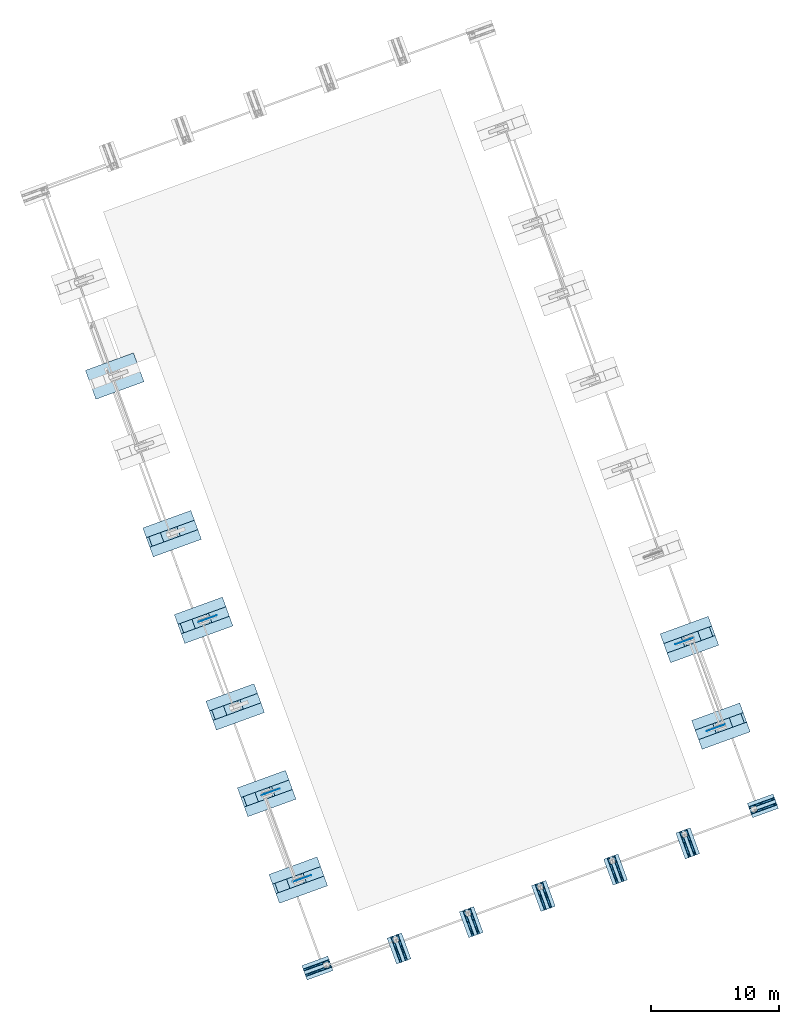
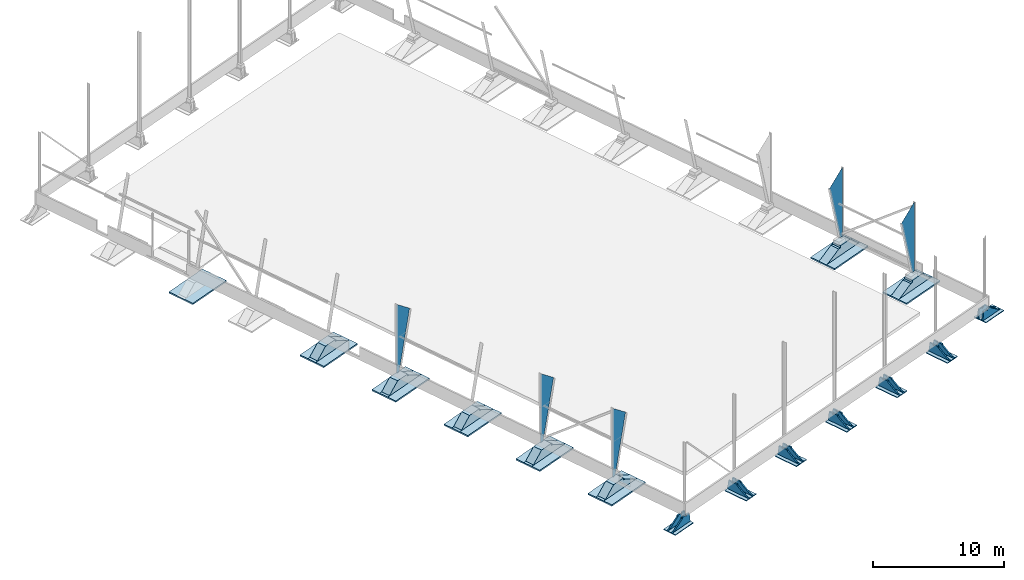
# One storey, part 12 of 20: 36 slabs, 5 plates, 41 elements without a shape of their own.
"""IFC4 building model written with IfcOpenShell, lengths in millimetres."""

from ifc_helpers import new_model, si_unit, direction, frame, origin_with_axes, place, context, subcontext, project, spatial, line, indexed_curve, outline, extrude, material, element, aggregate, save


model = new_model("IFC4")

# Units and contexts
model_context = context("Model", 3, precision=0.2, world=frame((203566.813, 116264.779, 0.0), z_axis=(0.0, 0.0, 1.0), x_axis=(1.0, 0.0, 0.0)), true_north=direction((-0.9396138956, -0.3422363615)))
body_context = subcontext(model_context, "Body", "Model", "MODEL_VIEW")
ifc_project = project(units=[si_unit("LENGTHUNIT", "METRE", prefix="MILLI"), si_unit("AREAUNIT", "SQUARE_METRE"), si_unit("VOLUMEUNIT", "CUBIC_METRE"), si_unit("MASSUNIT", "GRAM", prefix="KILO"), si_unit("TIMEUNIT", "SECOND"), si_unit("PLANEANGLEUNIT", "RADIAN"), si_unit("SOLIDANGLEUNIT", "STERADIAN"), si_unit("THERMODYNAMICTEMPERATUREUNIT", "DEGREE_CELSIUS"), si_unit("LUMINOUSINTENSITYUNIT", "LUMEN")], contexts=[model_context])

# Site, building, storey
site_placement = place(None, origin_with_axes())
site = spatial("IfcSite", under=ifc_project, at=site_placement, Name="Nobelprojektet", CompositionType="ELEMENT")
building_placement = place(site_placement, origin_with_axes())
building = spatial("IfcBuilding", under=site, at=building_placement, Name="Hall B", CompositionType="ELEMENT")
storey_placement = place(building_placement, frame((0.0, 0.0, 1000.0), z_axis=(0.0, 0.0, 1.0), x_axis=(1.0, 0.0, 0.0)))
storey = spatial("IfcBuildingStorey", under=building, at=storey_placement, Name="Plan_1", CompositionType="ELEMENT", Elevation=1000.0)

# Assembly, slab
assembly_1_placement = place(storey_placement, frame((183937.63575, 124685.40881, 131014.99996), z_axis=(0.0, 0.0, 1.0), x_axis=(0.9396136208, 0.3422371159, 0.0)))
assembly_1 = element("IfcElementAssembly", 1, at=assembly_1_placement, inside=storey, Name="BJÄLKLAG", PredefinedType="NOTDEFINED")
ifc_material_1 = material(Name="C25/30", Category="CONCRETE")
slab_1_placement = place(assembly_1_placement, origin_with_axes())
slab_1 = element("IfcSlab", 2, at=slab_1_placement, material=ifc_material_1, Name="BEF_GRUND", PredefinedType="NOTDEFINED", context=body_context, shape_type="SolidModel", body=[
    extrude(outline(indexed_curve([(0.0, 0.0), (2150.00916, 0.0), (2150.00916, 1200.01221), (0.0, 1200.01221)], segments=[line(1, 2, 3, 4, 1)])), frame((0.0, 0.0, 35.0), z_axis=(0.0, 0.0, 1.0), x_axis=(1.0, 0.0, 0.0)), (0.0, 0.0, -1.0), 70.0),
])
aggregate(assembly_1, [slab_1])

assembly_2_placement = place(storey_placement, frame((185674.79012, 126198.2875, 131049.99996), z_axis=(0.3422371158, -0.9396136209, 1.3e-09), x_axis=(-0.9257183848, -0.3371760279, 0.171341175)))
assembly_2 = element("IfcElementAssembly", 3, at=assembly_2_placement, inside=storey, Name="BEF_GRUND", PredefinedType="NOTDEFINED")
slab_2_placement = place(assembly_2_placement, origin_with_axes())
slab_2 = element("IfcSlab", 4, at=slab_2_placement, material=ifc_material_1, Name="BEF_GRUND", PredefinedType="NOTDEFINED", context=body_context, shape_type="SolidModel", body=[
    extrude(outline(indexed_curve([(0.0, 0.0), (233.45235, 0.0), (1303.30665, -502.11531), (1328.66514, -601.23618), (1710.9273, -534.75581), (1693.79318, -436.23463), (1800.19605, -417.72978), (1821.27102, -515.56559), (2151.31695, -458.1663), (2118.21429, 368.38509)], segments=[line(1, 2, 3, 4, 5, 6, 7, 8, 9, 10, 1)])), frame((0.0, 0.0, 65.0), z_axis=(0.0, 0.0, 1.0), x_axis=(1.0, 0.0, 0.0)), (0.0, 0.0, -1.0), 130.0),
])
aggregate(assembly_2, [slab_2])

assembly_3_placement = place(storey_placement, frame((185830.16577, 125771.70292, 131049.99996), z_axis=(0.3422371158, -0.9396136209, 1.3e-09), x_axis=(-0.9257183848, -0.3371760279, 0.171341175)))
assembly_3 = element("IfcElementAssembly", 5, at=assembly_3_placement, inside=storey, Name="BEF_GRUND", PredefinedType="NOTDEFINED")
slab_3_placement = place(assembly_3_placement, origin_with_axes())
slab_3 = element("IfcSlab", 6, at=slab_3_placement, material=ifc_material_1, Name="BEF_GRUND", PredefinedType="NOTDEFINED", context=body_context, shape_type="SolidModel", body=[
    extrude(outline(indexed_curve([(0.0, 0.0), (233.45235, 0.0), (1303.30665, -502.11531), (1328.66514, -601.23618), (1710.9273, -534.75581), (1693.79318, -436.23463), (1800.19605, -417.72978), (1821.27102, -515.56559), (2151.31695, -458.1663), (2118.21429, 368.38509)], segments=[line(1, 2, 3, 4, 5, 6, 7, 8, 9, 10, 1)])), frame((0.0, 0.0, 65.0), z_axis=(0.0, 0.0, 1.0), x_axis=(1.0, 0.0, 0.0)), (0.0, 0.0, -1.0), 130.0),
])
aggregate(assembly_3, [slab_3])

assembly_4_placement = place(storey_placement, frame((180002.36309, 130031.59569, 130904.99996), z_axis=(0.0, 0.0, 1.0), x_axis=(0.9396136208, 0.3422371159, 0.0)))
assembly_4 = element("IfcElementAssembly", 7, at=assembly_4_placement, inside=storey, Name="BEF_GRUND", PredefinedType="NOTDEFINED")
slab_4_placement = place(assembly_4_placement, origin_with_axes())
slab_4 = element("IfcSlab", 8, at=slab_4_placement, material=ifc_material_1, Name="BEF_GRUND", PredefinedType="NOTDEFINED", context=body_context, shape_type="SolidModel", body=[
    extrude(outline(indexed_curve([(0.0, 0.0), (4000.0, 0.0), (4000.0, 2399.9939), (0.0, 2400.0)], segments=[line(1, 2, 3, 4, 1)])), frame((0.0, 0.0, 65.0), z_axis=(0.0, 0.0, 1.0), x_axis=(1.0, 0.0, 0.0)), (0.0, 0.0, -1.0), 130.0),
])
aggregate(assembly_4, [slab_4])

assembly_5_placement = place(storey_placement, frame((183350.13684, 132528.07539, 130969.99996), z_axis=(0.3422371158, -0.9396136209, 1.3e-09), x_axis=(-0.9213674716, -0.3355896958, 0.1961161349)))
assembly_5 = element("IfcElementAssembly", 9, at=assembly_5_placement, inside=storey, Name="BEF_GRUND", PredefinedType="NOTDEFINED")
slab_5_placement = place(assembly_5_placement, origin_with_axes())
slab_5 = element("IfcSlab", 10, at=slab_5_placement, material=ifc_material_1, Name="BEF_GRUND", PredefinedType="NOTDEFINED", context=body_context, shape_type="SolidModel", body=[
    extrude(outline(indexed_curve([(0.0, 0.0), (203.96078, 0.0), (1321.82275, -653.45896), (2478.90795, -422.04192), (2439.68472, -225.92579), (2627.95621, -188.27149), (3734.05121, 706.01809), (3922.3227, 784.46454)], segments=[line(1, 2, 3, 4, 5, 6, 7, 8, 1)])), frame((0.0, 0.0, 392.5), z_axis=(0.0, 0.0, 1.0), x_axis=(1.0, 0.0, 0.0)), (0.0, 0.0, -1.0), 785.0),
])
aggregate(assembly_5, [slab_5])

assembly_6_placement = place(storey_placement, frame((150742.80393, 119374.33518, 130904.99996), z_axis=(0.0, 0.0, -1.0), x_axis=(-0.9396136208, -0.3422371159, 0.0)))
assembly_6 = element("IfcElementAssembly", 11, at=assembly_6_placement, inside=storey, Name="BEF_GRUND", PredefinedType="NOTDEFINED")
slab_6_placement = place(assembly_6_placement, origin_with_axes())
slab_6 = element("IfcSlab", 12, at=slab_6_placement, material=ifc_material_1, Name="BEF_GRUND", PredefinedType="NOTDEFINED", context=body_context, shape_type="SolidModel", body=[
    extrude(outline(indexed_curve([(0.0, 0.0), (4000.0, 0.0), (4000.0, 2399.9939), (0.0, 2400.0)], segments=[line(1, 2, 3, 4, 1)])), frame((0.0, 0.0, 65.0), z_axis=(0.0, 0.0, 1.0), x_axis=(1.0, 0.0, 0.0)), (0.0, 0.0, -1.0), 130.0),
])
aggregate(assembly_6, [slab_6])

assembly_7_placement = place(storey_placement, frame((146573.66528, 119132.9167, 130969.99996), z_axis=(-0.3422371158, 0.9396136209, 1.3e-09), x_axis=(0.9213664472, 0.3355925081, 0.1961161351)))
assembly_7 = element("IfcElementAssembly", 13, at=assembly_7_placement, inside=storey, Name="BEF_GRUND", PredefinedType="NOTDEFINED")
slab_7_placement = place(assembly_7_placement, origin_with_axes())
slab_7 = element("IfcSlab", 14, at=slab_7_placement, material=ifc_material_1, Name="BEF_GRUND", PredefinedType="NOTDEFINED", context=body_context, shape_type="SolidModel", body=[
    extrude(outline(indexed_curve([(0.0, 0.0), (203.96078, 0.0), (1321.82275, -653.45896), (2478.90795, -422.04192), (2439.68472, -225.92579), (2627.95621, -188.27149), (3734.05121, 706.01809), (3922.3227, 784.46454)], segments=[line(1, 2, 3, 4, 5, 6, 7, 8, 1)])), frame((0.0, 0.0, 392.5), z_axis=(0.0, 0.0, 1.0), x_axis=(1.0, 0.0, 0.0)), (0.0, 0.0, -1.0), 785.0),
])
aggregate(assembly_7, [slab_7])

assembly_8_placement = place(storey_placement, frame((177538.25585, 136796.81376, 130904.99996), z_axis=(0.0, 0.0, 1.0), x_axis=(0.9396136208, 0.3422371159, 0.0)))
assembly_8 = element("IfcElementAssembly", 15, at=assembly_8_placement, inside=storey, Name="BEF_GRUND", PredefinedType="NOTDEFINED")
slab_8_placement = place(assembly_8_placement, origin_with_axes())
slab_8 = element("IfcSlab", 16, at=slab_8_placement, material=ifc_material_1, Name="BEF_GRUND", PredefinedType="NOTDEFINED", context=body_context, shape_type="SolidModel", body=[
    extrude(outline(indexed_curve([(0.0, 0.0), (4000.0, 0.0), (4000.0, 2399.9939), (0.0, 2400.0)], segments=[line(1, 2, 3, 4, 1)])), frame((0.0, 0.0, 65.0), z_axis=(0.0, 0.0, 1.0), x_axis=(1.0, 0.0, 0.0)), (0.0, 0.0, -1.0), 130.0),
])
aggregate(assembly_8, [slab_8])

assembly_9_placement = place(storey_placement, frame((180886.02961, 139293.29346, 130969.99996), z_axis=(0.3422371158, -0.9396136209, 1.3e-09), x_axis=(-0.9213674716, -0.3355896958, 0.1961161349)))
assembly_9 = element("IfcElementAssembly", 17, at=assembly_9_placement, inside=storey, Name="BEF_GRUND", PredefinedType="NOTDEFINED")
slab_9_placement = place(assembly_9_placement, origin_with_axes())
slab_9 = element("IfcSlab", 18, at=slab_9_placement, material=ifc_material_1, Name="BEF_GRUND", PredefinedType="NOTDEFINED", context=body_context, shape_type="SolidModel", body=[
    extrude(outline(indexed_curve([(0.0, 0.0), (203.96078, 0.0), (1321.82275, -653.45896), (2478.90795, -422.04192), (2439.68472, -225.92579), (2627.95621, -188.27149), (3734.05121, 706.01809), (3922.3227, 784.46454)], segments=[line(1, 2, 3, 4, 5, 6, 7, 8, 1)])), frame((0.0, 0.0, 392.5), z_axis=(0.0, 0.0, 1.0), x_axis=(1.0, 0.0, 0.0)), (0.0, 0.0, -1.0), 785.0),
])
aggregate(assembly_9, [slab_9])

assembly_10_placement = place(storey_placement, frame((148278.6967, 126139.55325, 130904.99996), z_axis=(0.0, 0.0, -1.0), x_axis=(-0.9396136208, -0.3422371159, 0.0)))
assembly_10 = element("IfcElementAssembly", 19, at=assembly_10_placement, inside=storey, Name="BEF_GRUND", PredefinedType="NOTDEFINED")
slab_10_placement = place(assembly_10_placement, origin_with_axes())
slab_10 = element("IfcSlab", 20, at=slab_10_placement, material=ifc_material_1, Name="BEF_GRUND", PredefinedType="NOTDEFINED", context=body_context, shape_type="SolidModel", body=[
    extrude(outline(indexed_curve([(0.0, 0.0), (4000.0, 0.0), (4000.0, 2399.9939), (0.0, 2400.0)], segments=[line(1, 2, 3, 4, 1)])), frame((0.0, 0.0, 65.0), z_axis=(0.0, 0.0, 1.0), x_axis=(1.0, 0.0, 0.0)), (0.0, 0.0, -1.0), 130.0),
])
aggregate(assembly_10, [slab_10])

assembly_11_placement = place(storey_placement, frame((144109.55805, 125898.13477, 130969.99996), z_axis=(-0.3422371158, 0.9396136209, 1.3e-09), x_axis=(0.9213664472, 0.3355925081, 0.1961161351)))
assembly_11 = element("IfcElementAssembly", 21, at=assembly_11_placement, inside=storey, Name="BEF_GRUND", PredefinedType="NOTDEFINED")
slab_11_placement = place(assembly_11_placement, origin_with_axes())
slab_11 = element("IfcSlab", 22, at=slab_11_placement, material=ifc_material_1, Name="BEF_GRUND", PredefinedType="NOTDEFINED", context=body_context, shape_type="SolidModel", body=[
    extrude(outline(indexed_curve([(0.0, 0.0), (203.96078, 0.0), (1321.82275, -653.45896), (2478.90795, -422.04192), (2439.68472, -225.92579), (2627.95621, -188.27149), (3734.05121, 706.01809), (3922.3227, 784.46454)], segments=[line(1, 2, 3, 4, 5, 6, 7, 8, 1)])), frame((0.0, 0.0, 392.5), z_axis=(0.0, 0.0, 1.0), x_axis=(1.0, 0.0, 0.0)), (0.0, 0.0, -1.0), 785.0),
])
aggregate(assembly_11, [slab_11])

assembly_12_placement = place(storey_placement, frame((145814.58947, 132904.77132, 130904.99996), z_axis=(0.0, 0.0, -1.0), x_axis=(-0.9396136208, -0.3422371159, 0.0)))
assembly_12 = element("IfcElementAssembly", 23, at=assembly_12_placement, inside=storey, Name="BEF_GRUND", PredefinedType="NOTDEFINED")
slab_12_placement = place(assembly_12_placement, origin_with_axes())
slab_12 = element("IfcSlab", 24, at=slab_12_placement, material=ifc_material_1, Name="BEF_GRUND", PredefinedType="NOTDEFINED", context=body_context, shape_type="SolidModel", body=[
    extrude(outline(indexed_curve([(0.0, 0.0), (4000.0, 0.0), (4000.0, 2399.9939), (0.0, 2400.0)], segments=[line(1, 2, 3, 4, 1)])), frame((0.0, 0.0, 65.0), z_axis=(0.0, 0.0, 1.0), x_axis=(1.0, 0.0, 0.0)), (0.0, 0.0, -1.0), 130.0),
])
aggregate(assembly_12, [slab_12])

assembly_13_placement = place(storey_placement, frame((141645.45081, 132663.35284, 130969.99996), z_axis=(-0.3422371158, 0.9396136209, 1.3e-09), x_axis=(0.9213664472, 0.3355925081, 0.1961161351)))
assembly_13 = element("IfcElementAssembly", 25, at=assembly_13_placement, inside=storey, Name="BEF_GRUND", PredefinedType="NOTDEFINED")
slab_13_placement = place(assembly_13_placement, origin_with_axes())
slab_13 = element("IfcSlab", 26, at=slab_13_placement, material=ifc_material_1, Name="BEF_GRUND", PredefinedType="NOTDEFINED", context=body_context, shape_type="SolidModel", body=[
    extrude(outline(indexed_curve([(0.0, 0.0), (203.96078, 0.0), (1321.82275, -653.45896), (2478.90795, -422.04192), (2439.68472, -225.92579), (2627.95621, -188.27149), (3734.05121, 706.01809), (3922.3227, 784.46454)], segments=[line(1, 2, 3, 4, 5, 6, 7, 8, 1)])), frame((0.0, 0.0, 392.5), z_axis=(0.0, 0.0, 1.0), x_axis=(1.0, 0.0, 0.0)), (0.0, 0.0, -1.0), 785.0),
])
aggregate(assembly_13, [slab_13])

assembly_14_placement = place(storey_placement, frame((143350.48223, 139669.98939, 130904.99996), z_axis=(0.0, 0.0, -1.0), x_axis=(-0.9396136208, -0.3422371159, 0.0)))
assembly_14 = element("IfcElementAssembly", 27, at=assembly_14_placement, inside=storey, Name="BEF_GRUND", PredefinedType="NOTDEFINED")
slab_14_placement = place(assembly_14_placement, origin_with_axes())
slab_14 = element("IfcSlab", 28, at=slab_14_placement, material=ifc_material_1, Name="BEF_GRUND", PredefinedType="NOTDEFINED", context=body_context, shape_type="SolidModel", body=[
    extrude(outline(indexed_curve([(0.0, 0.0), (4000.0, 0.0), (4000.0, 2399.9939), (0.0, 2400.0)], segments=[line(1, 2, 3, 4, 1)])), frame((0.0, 0.0, 65.0), z_axis=(0.0, 0.0, 1.0), x_axis=(1.0, 0.0, 0.0)), (0.0, 0.0, -1.0), 130.0),
])
aggregate(assembly_14, [slab_14])

assembly_15_placement = place(storey_placement, frame((139181.34358, 139428.57091, 130969.99996), z_axis=(-0.3422371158, 0.9396136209, 1.3e-09), x_axis=(0.9213664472, 0.3355925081, 0.1961161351)))
assembly_15 = element("IfcElementAssembly", 29, at=assembly_15_placement, inside=storey, Name="BEF_GRUND", PredefinedType="NOTDEFINED")
slab_15_placement = place(assembly_15_placement, origin_with_axes())
slab_15 = element("IfcSlab", 30, at=slab_15_placement, material=ifc_material_1, Name="BEF_GRUND", PredefinedType="NOTDEFINED", context=body_context, shape_type="SolidModel", body=[
    extrude(outline(indexed_curve([(0.0, 0.0), (203.96078, 0.0), (1321.82275, -653.45896), (2478.90795, -422.04192), (2439.68472, -225.92579), (2627.95621, -188.27149), (3734.05121, 706.01809), (3922.3227, 784.46454)], segments=[line(1, 2, 3, 4, 5, 6, 7, 8, 1)])), frame((0.0, 0.0, 392.5), z_axis=(0.0, 0.0, 1.0), x_axis=(1.0, 0.0, 0.0)), (0.0, 0.0, -1.0), 785.0),
])
aggregate(assembly_15, [slab_15])

assembly_16_placement = place(storey_placement, frame((140886.375, 146435.20746, 130904.99996), z_axis=(0.0, 0.0, -1.0), x_axis=(-0.9396136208, -0.3422371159, 0.0)))
assembly_16 = element("IfcElementAssembly", 31, at=assembly_16_placement, inside=storey, Name="BEF_GRUND", PredefinedType="NOTDEFINED")
slab_16_placement = place(assembly_16_placement, origin_with_axes())
slab_16 = element("IfcSlab", 32, at=slab_16_placement, material=ifc_material_1, Name="BEF_GRUND", PredefinedType="NOTDEFINED", context=body_context, shape_type="SolidModel", body=[
    extrude(outline(indexed_curve([(0.0, 0.0), (4000.0, 0.0), (4000.0, 2399.9939), (0.0, 2400.0)], segments=[line(1, 2, 3, 4, 1)])), frame((0.0, 0.0, 65.0), z_axis=(0.0, 0.0, 1.0), x_axis=(1.0, 0.0, 0.0)), (0.0, 0.0, -1.0), 130.0),
])
aggregate(assembly_16, [slab_16])

assembly_17_placement = place(storey_placement, frame((136717.23634, 146193.78898, 130969.99996), z_axis=(-0.3422371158, 0.9396136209, 1.3e-09), x_axis=(0.9213664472, 0.3355925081, 0.1961161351)))
assembly_17 = element("IfcElementAssembly", 33, at=assembly_17_placement, inside=storey, Name="BEF_GRUND", PredefinedType="NOTDEFINED")
slab_17_placement = place(assembly_17_placement, origin_with_axes())
slab_17 = element("IfcSlab", 34, at=slab_17_placement, material=ifc_material_1, Name="BEF_GRUND", PredefinedType="NOTDEFINED", context=body_context, shape_type="SolidModel", body=[
    extrude(outline(indexed_curve([(0.0, 0.0), (203.96078, 0.0), (1321.82275, -653.45896), (2478.90795, -422.04192), (2439.68472, -225.92579), (2627.95621, -188.27149), (3734.05121, 706.01809), (3922.3227, 784.46454)], segments=[line(1, 2, 3, 4, 5, 6, 7, 8, 1)])), frame((0.0, 0.0, 392.5), z_axis=(0.0, 0.0, 1.0), x_axis=(1.0, 0.0, 0.0)), (0.0, 0.0, -1.0), 785.0),
])
aggregate(assembly_17, [slab_17])

assembly_18_placement = place(storey_placement, frame((136403.06878, 158744.14589, 130904.99996), z_axis=(0.0, 0.0, -1.0), x_axis=(-0.9396136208, -0.3422371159, 0.0)))
assembly_18 = element("IfcElementAssembly", 35, at=assembly_18_placement, inside=storey, Name="BEF_GRUND", PredefinedType="NOTDEFINED")
slab_18_placement = place(assembly_18_placement, origin_with_axes())
slab_18 = element("IfcSlab", 36, at=slab_18_placement, material=ifc_material_1, Name="BEF_GRUND", PredefinedType="NOTDEFINED", context=body_context, shape_type="SolidModel", body=[
    extrude(outline(indexed_curve([(0.0, 0.0), (4000.0, 0.0), (4000.0, 2399.9939), (0.0, 2400.0)], segments=[line(1, 2, 3, 4, 1)])), frame((0.0, 0.0, 65.0), z_axis=(0.0, 0.0, 1.0), x_axis=(1.0, 0.0, 0.0)), (0.0, 0.0, -1.0), 130.0),
])
aggregate(assembly_18, [slab_18])

assembly_19_placement = place(storey_placement, frame((151167.66322, 112749.68903, 131014.99996), z_axis=(0.0, 0.0, -1.0), x_axis=(-0.9396136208, -0.3422371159, 0.0)))
assembly_19 = element("IfcElementAssembly", 37, at=assembly_19_placement, inside=storey, Name="BEF_GRUND", PredefinedType="NOTDEFINED")
slab_19_placement = place(assembly_19_placement, origin_with_axes())
slab_19 = element("IfcSlab", 38, at=slab_19_placement, material=ifc_material_1, Name="BEF_GRUND", PredefinedType="NOTDEFINED", context=body_context, shape_type="SolidModel", body=[
    extrude(outline(indexed_curve([(0.0, 0.0), (2150.00916, 0.0), (2150.00916, 1200.01221), (0.0, 1200.01221)], segments=[line(1, 2, 3, 4, 1)])), frame((0.0, 0.0, 35.0), z_axis=(0.0, 0.0, 1.0), x_axis=(1.0, 0.0, 0.0)), (0.0, 0.0, -1.0), 70.0),
])
aggregate(assembly_19, [slab_19])

assembly_20_placement = place(storey_placement, frame((148864.4468, 112790.93639, 131049.99996), z_axis=(-0.3422371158, 0.9396136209, 1.3e-09), x_axis=(0.9257183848, 0.3371760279, 0.171341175)))
assembly_20 = element("IfcElementAssembly", 39, at=assembly_20_placement, inside=storey, Name="BEF_GRUND", PredefinedType="NOTDEFINED")
slab_20_placement = place(assembly_20_placement, origin_with_axes())
slab_20 = element("IfcSlab", 40, at=slab_20_placement, material=ifc_material_1, Name="BEF_GRUND", PredefinedType="NOTDEFINED", context=body_context, shape_type="SolidModel", body=[
    extrude(outline(indexed_curve([(0.0, 0.0), (233.45235, 0.0), (1303.30665, -502.11531), (1328.66514, -601.23618), (1710.9273, -534.75581), (1693.79318, -436.23463), (1800.19605, -417.72978), (1821.27102, -515.56559), (2151.31695, -458.1663), (2118.21429, 368.38509)], segments=[line(1, 2, 3, 4, 5, 6, 7, 8, 9, 10, 1)])), frame((0.0, 0.0, 65.0), z_axis=(0.0, 0.0, 1.0), x_axis=(1.0, 0.0, 0.0)), (0.0, 0.0, -1.0), 130.0),
])
aggregate(assembly_20, [slab_20])

assembly_21_placement = place(storey_placement, frame((149019.82245, 112364.3518, 131049.99996), z_axis=(-0.3422371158, 0.9396136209, 1.3e-09), x_axis=(0.9257183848, 0.3371760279, 0.171341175)))
assembly_21 = element("IfcElementAssembly", 41, at=assembly_21_placement, inside=storey, Name="BEF_GRUND", PredefinedType="NOTDEFINED")
slab_21_placement = place(assembly_21_placement, origin_with_axes())
slab_21 = element("IfcSlab", 42, at=slab_21_placement, material=ifc_material_1, Name="BEF_GRUND", PredefinedType="NOTDEFINED", context=body_context, shape_type="SolidModel", body=[
    extrude(outline(indexed_curve([(0.0, 0.0), (233.45235, 0.0), (1303.30665, -502.11531), (1328.66514, -601.23618), (1710.9273, -534.75581), (1693.79318, -436.23463), (1800.19605, -417.72978), (1821.27102, -515.56559), (2151.31695, -458.1663), (2118.21429, 368.38509)], segments=[line(1, 2, 3, 4, 5, 6, 7, 8, 9, 10, 1)])), frame((0.0, 0.0, 65.0), z_axis=(0.0, 0.0, 1.0), x_axis=(1.0, 0.0, 0.0)), (0.0, 0.0, -1.0), 130.0),
])
aggregate(assembly_21, [slab_21])

assembly_22_placement = place(storey_placement, frame((177945.25967, 123494.8582, 131014.99996), z_axis=(0.0, 0.0, 1.0), x_axis=(0.3422371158, -0.9396136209, 1.3e-09)))
assembly_22 = element("IfcElementAssembly", 43, at=assembly_22_placement, inside=storey, Name="BEF_GRUND", PredefinedType="NOTDEFINED")
slab_22_placement = place(assembly_22_placement, origin_with_axes())
slab_22 = element("IfcSlab", 44, at=slab_22_placement, material=ifc_material_1, Name="BEF_GRUND", PredefinedType="NOTDEFINED", context=body_context, shape_type="SolidModel", body=[
    extrude(outline(indexed_curve([(0.0, 0.0), (2150.00916, 0.0), (2150.00916, 1200.01221), (0.0, 1200.01221)], segments=[line(1, 2, 3, 4, 1)])), frame((0.0, 0.0, 35.0), z_axis=(0.0, 0.0, 1.0), x_axis=(1.0, 0.0, 0.0)), (0.0, 0.0, -1.0), 70.0),
])
aggregate(assembly_22, [slab_22])

assembly_23_placement = place(storey_placement, frame((179458.13836, 121757.70383, 131049.99996), z_axis=(-0.9396136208, -0.3422371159, 0.0), x_axis=(-0.3371760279, 0.9257183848, 0.171341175)))
assembly_23 = element("IfcElementAssembly", 45, at=assembly_23_placement, inside=storey, Name="BEF_GRUND", PredefinedType="NOTDEFINED")
slab_23_placement = place(assembly_23_placement, origin_with_axes())
slab_23 = element("IfcSlab", 46, at=slab_23_placement, material=ifc_material_1, Name="BEF_GRUND", PredefinedType="NOTDEFINED", context=body_context, shape_type="SolidModel", body=[
    extrude(outline(indexed_curve([(0.0, 0.0), (233.45235, 0.0), (1303.30665, -502.11531), (1328.66514, -601.23618), (1710.9273, -534.75581), (1693.79318, -436.23463), (1800.19605, -417.72978), (1821.27102, -515.56559), (2151.31695, -458.1663), (2118.21429, 368.38509)], segments=[line(1, 2, 3, 4, 5, 6, 7, 8, 9, 10, 1)])), frame((0.0, 0.0, 65.0), z_axis=(0.0, 0.0, 1.0), x_axis=(1.0, 0.0, 0.0)), (0.0, 0.0, -1.0), 130.0),
])
aggregate(assembly_23, [slab_23])

assembly_24_placement = place(storey_placement, frame((179031.55378, 121602.32818, 131049.99996), z_axis=(-0.9396136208, -0.3422371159, 0.0), x_axis=(-0.3371760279, 0.9257183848, 0.171341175)))
assembly_24 = element("IfcElementAssembly", 47, at=assembly_24_placement, inside=storey, Name="BEF_GRUND", PredefinedType="NOTDEFINED")
slab_24_placement = place(assembly_24_placement, origin_with_axes())
slab_24 = element("IfcSlab", 48, at=slab_24_placement, material=ifc_material_1, Name="BEF_GRUND", PredefinedType="NOTDEFINED", context=body_context, shape_type="SolidModel", body=[
    extrude(outline(indexed_curve([(0.0, 0.0), (233.45235, 0.0), (1303.30665, -502.11531), (1328.66514, -601.23618), (1710.9273, -534.75581), (1693.79318, -436.23463), (1800.19605, -417.72978), (1821.27102, -515.56559), (2151.31695, -458.1663), (2118.21429, 368.38509)], segments=[line(1, 2, 3, 4, 5, 6, 7, 8, 9, 10, 1)])), frame((0.0, 0.0, 65.0), z_axis=(0.0, 0.0, 1.0), x_axis=(1.0, 0.0, 0.0)), (0.0, 0.0, -1.0), 130.0),
])
aggregate(assembly_24, [slab_24])

assembly_25_placement = place(storey_placement, frame((172307.57795, 121441.4355, 131014.99996), z_axis=(0.0, 0.0, 1.0), x_axis=(0.3422371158, -0.9396136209, 1.3e-09)))
assembly_25 = element("IfcElementAssembly", 49, at=assembly_25_placement, inside=storey, Name="BEF_GRUND", PredefinedType="NOTDEFINED")
slab_25_placement = place(assembly_25_placement, origin_with_axes())
slab_25 = element("IfcSlab", 50, at=slab_25_placement, material=ifc_material_1, Name="BEF_GRUND", PredefinedType="NOTDEFINED", context=body_context, shape_type="SolidModel", body=[
    extrude(outline(indexed_curve([(0.0, 0.0), (2150.00916, 0.0), (2150.00916, 1200.01221), (0.0, 1200.01221)], segments=[line(1, 2, 3, 4, 1)])), frame((0.0, 0.0, 35.0), z_axis=(0.0, 0.0, 1.0), x_axis=(1.0, 0.0, 0.0)), (0.0, 0.0, -1.0), 70.0),
])
aggregate(assembly_25, [slab_25])

assembly_26_placement = place(storey_placement, frame((173820.45664, 119704.28114, 131049.99996), z_axis=(-0.9396136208, -0.3422371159, 0.0), x_axis=(-0.3371760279, 0.9257183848, 0.171341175)))
assembly_26 = element("IfcElementAssembly", 51, at=assembly_26_placement, inside=storey, Name="BEF_GRUND", PredefinedType="NOTDEFINED")
slab_26_placement = place(assembly_26_placement, origin_with_axes())
slab_26 = element("IfcSlab", 52, at=slab_26_placement, material=ifc_material_1, Name="BEF_GRUND", PredefinedType="NOTDEFINED", context=body_context, shape_type="SolidModel", body=[
    extrude(outline(indexed_curve([(0.0, 0.0), (233.45235, 0.0), (1303.30665, -502.11531), (1328.66514, -601.23618), (1710.9273, -534.75581), (1693.79318, -436.23463), (1800.19605, -417.72978), (1821.27102, -515.56559), (2151.31695, -458.1663), (2118.21429, 368.38509)], segments=[line(1, 2, 3, 4, 5, 6, 7, 8, 9, 10, 1)])), frame((0.0, 0.0, 65.0), z_axis=(0.0, 0.0, 1.0), x_axis=(1.0, 0.0, 0.0)), (0.0, 0.0, -1.0), 130.0),
])
aggregate(assembly_26, [slab_26])

assembly_27_placement = place(storey_placement, frame((173393.87206, 119548.90549, 131049.99996), z_axis=(-0.9396136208, -0.3422371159, 0.0), x_axis=(-0.3371760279, 0.9257183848, 0.171341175)))
assembly_27 = element("IfcElementAssembly", 53, at=assembly_27_placement, inside=storey, Name="BEF_GRUND", PredefinedType="NOTDEFINED")
slab_27_placement = place(assembly_27_placement, origin_with_axes())
slab_27 = element("IfcSlab", 54, at=slab_27_placement, material=ifc_material_1, Name="BEF_GRUND", PredefinedType="NOTDEFINED", context=body_context, shape_type="SolidModel", body=[
    extrude(outline(indexed_curve([(0.0, 0.0), (233.45235, 0.0), (1303.30665, -502.11531), (1328.66514, -601.23618), (1710.9273, -534.75581), (1693.79318, -436.23463), (1800.19605, -417.72978), (1821.27102, -515.56559), (2151.31695, -458.1663), (2118.21429, 368.38509)], segments=[line(1, 2, 3, 4, 5, 6, 7, 8, 9, 10, 1)])), frame((0.0, 0.0, 65.0), z_axis=(0.0, 0.0, 1.0), x_axis=(1.0, 0.0, 0.0)), (0.0, 0.0, -1.0), 130.0),
])
aggregate(assembly_27, [slab_27])

assembly_28_placement = place(storey_placement, frame((166669.89622, 119388.01281, 131014.99996), z_axis=(0.0, 0.0, 1.0), x_axis=(0.3422371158, -0.9396136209, 1.3e-09)))
assembly_28 = element("IfcElementAssembly", 55, at=assembly_28_placement, inside=storey, Name="BEF_GRUND", PredefinedType="NOTDEFINED")
slab_28_placement = place(assembly_28_placement, origin_with_axes())
slab_28 = element("IfcSlab", 56, at=slab_28_placement, material=ifc_material_1, Name="BEF_GRUND", PredefinedType="NOTDEFINED", context=body_context, shape_type="SolidModel", body=[
    extrude(outline(indexed_curve([(0.0, 0.0), (2150.00916, 0.0), (2150.00916, 1200.01221), (0.0, 1200.01221)], segments=[line(1, 2, 3, 4, 1)])), frame((0.0, 0.0, 35.0), z_axis=(0.0, 0.0, 1.0), x_axis=(1.0, 0.0, 0.0)), (0.0, 0.0, -1.0), 70.0),
])
aggregate(assembly_28, [slab_28])

assembly_29_placement = place(storey_placement, frame((168182.77491, 117650.85844, 131049.99996), z_axis=(-0.9396136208, -0.3422371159, 0.0), x_axis=(-0.3371760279, 0.9257183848, 0.171341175)))
assembly_29 = element("IfcElementAssembly", 57, at=assembly_29_placement, inside=storey, Name="BEF_GRUND", PredefinedType="NOTDEFINED")
slab_29_placement = place(assembly_29_placement, origin_with_axes())
slab_29 = element("IfcSlab", 58, at=slab_29_placement, material=ifc_material_1, Name="BEF_GRUND", PredefinedType="NOTDEFINED", context=body_context, shape_type="SolidModel", body=[
    extrude(outline(indexed_curve([(0.0, 0.0), (233.45235, 0.0), (1303.30665, -502.11531), (1328.66514, -601.23618), (1710.9273, -534.75581), (1693.79318, -436.23463), (1800.19605, -417.72978), (1821.27102, -515.56559), (2151.31695, -458.1663), (2118.21429, 368.38509)], segments=[line(1, 2, 3, 4, 5, 6, 7, 8, 9, 10, 1)])), frame((0.0, 0.0, 65.0), z_axis=(0.0, 0.0, 1.0), x_axis=(1.0, 0.0, 0.0)), (0.0, 0.0, -1.0), 130.0),
])
aggregate(assembly_29, [slab_29])

assembly_30_placement = place(storey_placement, frame((167756.19033, 117495.48279, 131049.99996), z_axis=(-0.9396136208, -0.3422371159, 0.0), x_axis=(-0.3371760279, 0.9257183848, 0.171341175)))
assembly_30 = element("IfcElementAssembly", 59, at=assembly_30_placement, inside=storey, Name="BEF_GRUND", PredefinedType="NOTDEFINED")
slab_30_placement = place(assembly_30_placement, origin_with_axes())
slab_30 = element("IfcSlab", 60, at=slab_30_placement, material=ifc_material_1, Name="BEF_GRUND", PredefinedType="NOTDEFINED", context=body_context, shape_type="SolidModel", body=[
    extrude(outline(indexed_curve([(0.0, 0.0), (233.45235, 0.0), (1303.30665, -502.11531), (1328.66514, -601.23618), (1710.9273, -534.75581), (1693.79318, -436.23463), (1800.19605, -417.72978), (1821.27102, -515.56559), (2151.31695, -458.1663), (2118.21429, 368.38509)], segments=[line(1, 2, 3, 4, 5, 6, 7, 8, 9, 10, 1)])), frame((0.0, 0.0, 65.0), z_axis=(0.0, 0.0, 1.0), x_axis=(1.0, 0.0, 0.0)), (0.0, 0.0, -1.0), 130.0),
])
aggregate(assembly_30, [slab_30])

assembly_31_placement = place(storey_placement, frame((161032.2145, 117334.59011, 131014.99996), z_axis=(0.0, 0.0, 1.0), x_axis=(0.3422371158, -0.9396136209, 1.3e-09)))
assembly_31 = element("IfcElementAssembly", 61, at=assembly_31_placement, inside=storey, Name="BEF_GRUND", PredefinedType="NOTDEFINED")
slab_31_placement = place(assembly_31_placement, origin_with_axes())
slab_31 = element("IfcSlab", 62, at=slab_31_placement, material=ifc_material_1, Name="BEF_GRUND", PredefinedType="NOTDEFINED", context=body_context, shape_type="SolidModel", body=[
    extrude(outline(indexed_curve([(0.0, 0.0), (2150.00916, 0.0), (2150.00916, 1200.01221), (0.0, 1200.01221)], segments=[line(1, 2, 3, 4, 1)])), frame((0.0, 0.0, 35.0), z_axis=(0.0, 0.0, 1.0), x_axis=(1.0, 0.0, 0.0)), (0.0, 0.0, -1.0), 70.0),
])
aggregate(assembly_31, [slab_31])

assembly_32_placement = place(storey_placement, frame((162545.09319, 115597.43575, 131049.99996), z_axis=(-0.9396136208, -0.3422371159, 0.0), x_axis=(-0.3371760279, 0.9257183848, 0.171341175)))
assembly_32 = element("IfcElementAssembly", 63, at=assembly_32_placement, inside=storey, Name="BEF_GRUND", PredefinedType="NOTDEFINED")
slab_32_placement = place(assembly_32_placement, origin_with_axes())
slab_32 = element("IfcSlab", 64, at=slab_32_placement, material=ifc_material_1, Name="BEF_GRUND", PredefinedType="NOTDEFINED", context=body_context, shape_type="SolidModel", body=[
    extrude(outline(indexed_curve([(0.0, 0.0), (233.45235, 0.0), (1303.30665, -502.11531), (1328.66514, -601.23618), (1710.9273, -534.75581), (1693.79318, -436.23463), (1800.19605, -417.72978), (1821.27102, -515.56559), (2151.31695, -458.1663), (2118.21429, 368.38509)], segments=[line(1, 2, 3, 4, 5, 6, 7, 8, 9, 10, 1)])), frame((0.0, 0.0, 65.0), z_axis=(0.0, 0.0, 1.0), x_axis=(1.0, 0.0, 0.0)), (0.0, 0.0, -1.0), 130.0),
])
aggregate(assembly_32, [slab_32])

assembly_33_placement = place(storey_placement, frame((162118.50861, 115442.0601, 131049.99996), z_axis=(-0.9396136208, -0.3422371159, 0.0), x_axis=(-0.3371760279, 0.9257183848, 0.171341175)))
assembly_33 = element("IfcElementAssembly", 65, at=assembly_33_placement, inside=storey, Name="BEF_GRUND", PredefinedType="NOTDEFINED")
slab_33_placement = place(assembly_33_placement, origin_with_axes())
slab_33 = element("IfcSlab", 66, at=slab_33_placement, material=ifc_material_1, Name="BEF_GRUND", PredefinedType="NOTDEFINED", context=body_context, shape_type="SolidModel", body=[
    extrude(outline(indexed_curve([(0.0, 0.0), (233.45235, 0.0), (1303.30665, -502.11531), (1328.66514, -601.23618), (1710.9273, -534.75581), (1693.79318, -436.23463), (1800.19605, -417.72978), (1821.27102, -515.56559), (2151.31695, -458.1663), (2118.21429, 368.38509)], segments=[line(1, 2, 3, 4, 5, 6, 7, 8, 9, 10, 1)])), frame((0.0, 0.0, 65.0), z_axis=(0.0, 0.0, 1.0), x_axis=(1.0, 0.0, 0.0)), (0.0, 0.0, -1.0), 130.0),
])
aggregate(assembly_33, [slab_33])

assembly_34_placement = place(storey_placement, frame((155394.53277, 115281.16742, 131014.99996), z_axis=(0.0, 0.0, 1.0), x_axis=(0.3422371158, -0.9396136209, 1.3e-09)))
assembly_34 = element("IfcElementAssembly", 67, at=assembly_34_placement, inside=storey, Name="BEF_GRUND", PredefinedType="NOTDEFINED")
slab_34_placement = place(assembly_34_placement, origin_with_axes())
slab_34 = element("IfcSlab", 68, at=slab_34_placement, material=ifc_material_1, Name="BEF_GRUND", PredefinedType="NOTDEFINED", context=body_context, shape_type="SolidModel", body=[
    extrude(outline(indexed_curve([(0.0, 0.0), (2150.00916, 0.0), (2150.00916, 1200.01221), (0.0, 1200.01221)], segments=[line(1, 2, 3, 4, 1)])), frame((0.0, 0.0, 35.0), z_axis=(0.0, 0.0, 1.0), x_axis=(1.0, 0.0, 0.0)), (0.0, 0.0, -1.0), 70.0),
])
aggregate(assembly_34, [slab_34])

assembly_35_placement = place(storey_placement, frame((156907.41146, 113544.01305, 131049.99996), z_axis=(-0.9396136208, -0.3422371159, 0.0), x_axis=(-0.3371760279, 0.9257183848, 0.171341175)))
assembly_35 = element("IfcElementAssembly", 69, at=assembly_35_placement, inside=storey, Name="BEF_GRUND", PredefinedType="NOTDEFINED")
slab_35_placement = place(assembly_35_placement, origin_with_axes())
slab_35 = element("IfcSlab", 70, at=slab_35_placement, material=ifc_material_1, Name="BEF_GRUND", PredefinedType="NOTDEFINED", context=body_context, shape_type="SolidModel", body=[
    extrude(outline(indexed_curve([(0.0, 0.0), (233.45235, 0.0), (1303.30665, -502.11531), (1328.66514, -601.23618), (1710.9273, -534.75581), (1693.79318, -436.23463), (1800.19605, -417.72978), (1821.27102, -515.56559), (2151.31695, -458.1663), (2118.21429, 368.38509)], segments=[line(1, 2, 3, 4, 5, 6, 7, 8, 9, 10, 1)])), frame((0.0, 0.0, 65.0), z_axis=(0.0, 0.0, 1.0), x_axis=(1.0, 0.0, 0.0)), (0.0, 0.0, -1.0), 130.0),
])
aggregate(assembly_35, [slab_35])

assembly_36_placement = place(storey_placement, frame((156480.82688, 113388.6374, 131049.99996), z_axis=(-0.9396136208, -0.3422371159, 0.0), x_axis=(-0.3371760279, 0.9257183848, 0.171341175)))
assembly_36 = element("IfcElementAssembly", 71, at=assembly_36_placement, inside=storey, Name="BEF_GRUND", PredefinedType="NOTDEFINED")
slab_36_placement = place(assembly_36_placement, origin_with_axes())
slab_36 = element("IfcSlab", 72, at=slab_36_placement, material=ifc_material_1, Name="BEF_GRUND", PredefinedType="NOTDEFINED", context=body_context, shape_type="SolidModel", body=[
    extrude(outline(indexed_curve([(0.0, 0.0), (233.45235, 0.0), (1303.30665, -502.11531), (1328.66514, -601.23618), (1710.9273, -534.75581), (1693.79318, -436.23463), (1800.19605, -417.72978), (1821.27102, -515.56559), (2151.31695, -458.1663), (2118.21429, 368.38509)], segments=[line(1, 2, 3, 4, 5, 6, 7, 8, 9, 10, 1)])), frame((0.0, 0.0, 65.0), z_axis=(0.0, 0.0, 1.0), x_axis=(1.0, 0.0, 0.0)), (0.0, 0.0, -1.0), 130.0),
])
aggregate(assembly_36, [slab_36])

# Assembly, plate
assembly_37_placement = place(storey_placement, frame((148018.93169, 119675.37334, 132199.99959), z_axis=(0.3422371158, -0.9396136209, 1.3e-09), x_axis=(0.9396136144, 0.3422371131, 0.000118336)))
assembly_37 = element("IfcElementAssembly", 73, at=assembly_37_placement, inside=storey, Name="BEF. STOMME", PredefinedType="NOTDEFINED")
ifc_material_2 = material(Name="S355J2", Category="STEEL")
plate_1_placement = place(assembly_37_placement, origin_with_axes())
plate_1 = element("IfcPlate", 74, at=plate_1_placement, material=ifc_material_2, Name="BEF. STOMME", PredefinedType="NOTDEFINED", context=body_context, shape_type="SolidModel", body=[
    extrude(outline(indexed_curve([(0.0, 0.0), (294.31153, 0.0), (1536.28957, 5258.44015), (0.76173, 6436.97017)], segments=[line(1, 2, 3, 4, 1)])), frame((0.0, 0.0, 4.0), z_axis=(0.0, 0.0, 1.0), x_axis=(1.0, 0.0, 0.0)), (0.0, 0.0, -1.0), 8.0),
])
aggregate(assembly_37, [plate_1])

assembly_38_placement = place(storey_placement, frame((181816.83447, 131985.64249, 132199.9974), z_axis=(-0.3422371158, 0.9396136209, 1.3e-09), x_axis=(-0.9396136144, -0.3422371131, 0.000118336)))
assembly_38 = element("IfcElementAssembly", 75, at=assembly_38_placement, inside=storey, Name="BEF. STOMME", PredefinedType="NOTDEFINED")
plate_2_placement = place(assembly_38_placement, origin_with_axes())
plate_2 = element("IfcPlate", 76, at=plate_2_placement, material=ifc_material_2, Name="BEF. STOMME", PredefinedType="NOTDEFINED", context=body_context, shape_type="SolidModel", body=[
    extrude(outline(indexed_curve([(0.0, 0.0), (294.31153, 0.0), (1536.28957, 5258.44015), (0.76173, 6436.97017)], segments=[line(1, 2, 3, 4, 1)])), frame((0.0, 0.0, 4.0), z_axis=(0.0, 0.0, 1.0), x_axis=(1.0, 0.0, 0.0)), (0.0, 0.0, -1.0), 8.0),
])
aggregate(assembly_38, [plate_2])

assembly_39_placement = place(storey_placement, frame((145554.82433, 126440.59091, 132199.99959), z_axis=(0.3422371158, -0.9396136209, 1.3e-09), x_axis=(0.9396136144, 0.3422371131, 0.000118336)))
assembly_39 = element("IfcElementAssembly", 77, at=assembly_39_placement, inside=storey, Name="BEF. STOMME", PredefinedType="NOTDEFINED")
plate_3_placement = place(assembly_39_placement, origin_with_axes())
plate_3 = element("IfcPlate", 78, at=plate_3_placement, material=ifc_material_2, Name="BEF. STOMME", PredefinedType="NOTDEFINED", context=body_context, shape_type="SolidModel", body=[
    extrude(outline(indexed_curve([(0.0, 0.0), (294.31153, 0.0), (1536.28957, 5258.44015), (0.76173, 6436.97017)], segments=[line(1, 2, 3, 4, 1)])), frame((0.0, 0.0, 4.0), z_axis=(0.0, 0.0, 1.0), x_axis=(1.0, 0.0, 0.0)), (0.0, 0.0, -1.0), 8.0),
])
aggregate(assembly_39, [plate_3])

assembly_40_placement = place(storey_placement, frame((179352.72718, 138750.86081, 132199.9974), z_axis=(-0.3422371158, 0.9396136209, 1.3e-09), x_axis=(-0.9396136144, -0.3422371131, 0.000118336)))
assembly_40 = element("IfcElementAssembly", 79, at=assembly_40_placement, inside=storey, Name="BEF. STOMME", PredefinedType="NOTDEFINED")
plate_4_placement = place(assembly_40_placement, origin_with_axes())
plate_4 = element("IfcPlate", 80, at=plate_4_placement, material=ifc_material_2, Name="BEF. STOMME", PredefinedType="NOTDEFINED", context=body_context, shape_type="SolidModel", body=[
    extrude(outline(indexed_curve([(0.0, 0.0), (294.31153, 0.0), (1536.28957, 5258.44015), (0.76173, 6436.97017)], segments=[line(1, 2, 3, 4, 1)])), frame((0.0, 0.0, 4.0), z_axis=(0.0, 0.0, 1.0), x_axis=(1.0, 0.0, 0.0)), (0.0, 0.0, -1.0), 8.0),
])
aggregate(assembly_40, [plate_4])

assembly_41_placement = place(storey_placement, frame((140626.60944, 139971.0275, 132199.99959), z_axis=(0.3422371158, -0.9396136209, 1.3e-09), x_axis=(0.9396136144, 0.3422371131, 0.000118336)))
assembly_41 = element("IfcElementAssembly", 81, at=assembly_41_placement, inside=storey, Name="BEF. STOMME", PredefinedType="NOTDEFINED")
plate_5_placement = place(assembly_41_placement, origin_with_axes())
plate_5 = element("IfcPlate", 82, at=plate_5_placement, material=ifc_material_2, Name="BEF. STOMME", PredefinedType="NOTDEFINED", context=body_context, shape_type="SolidModel", body=[
    extrude(outline(indexed_curve([(0.0, 0.0), (294.31153, 0.0), (1536.28957, 5258.44015), (0.76173, 6436.97017)], segments=[line(1, 2, 3, 4, 1)])), frame((0.0, 0.0, 4.0), z_axis=(0.0, 0.0, 1.0), x_axis=(1.0, 0.0, 0.0)), (0.0, 0.0, -1.0), 8.0),
])
aggregate(assembly_41, [plate_5])

save(model, "model.ifc")
